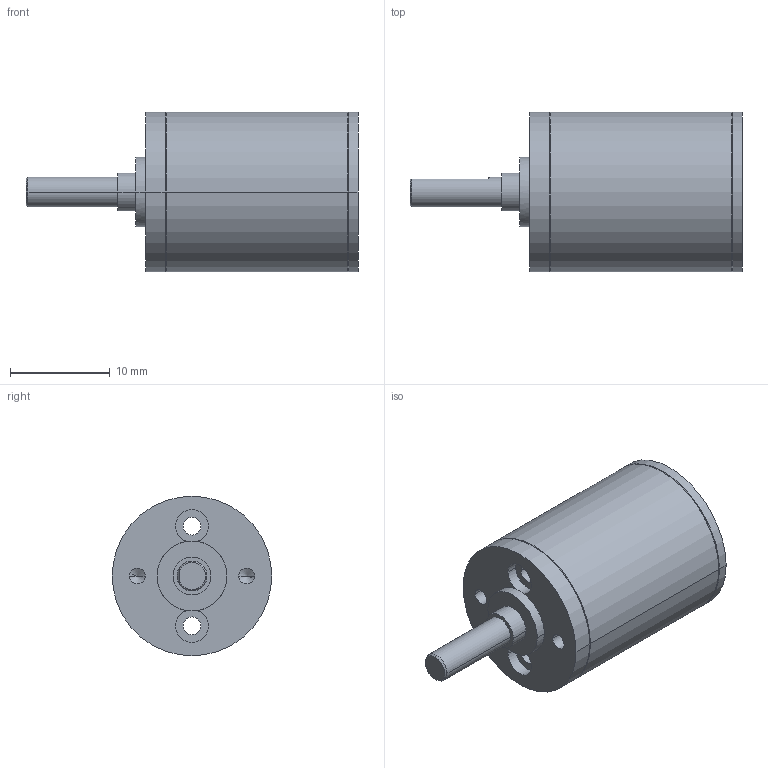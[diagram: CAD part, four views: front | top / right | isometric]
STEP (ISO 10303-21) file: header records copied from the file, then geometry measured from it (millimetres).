
FILE_DESCRIPTION((''),'2;1');
FILE_NAME('GS16V','2016-10-06T',('mmagpetk'),(''),'CREO PARAMETRIC BY PTC INC, 2016050','CREO PARAMETRIC BY PTC INC, 2016050','');
FILE_SCHEMA(('CONFIG_CONTROL_DESIGN'));
Length unit declared in the file: millimetre
Products named in the file (1): GS16V
Bounding box: 33.3 x 16 x 16 mm (x, y, z)
Volume: 3850 mm3; surface area: 2217.7 mm2
Topology: 1 solids, 1 shells, 51 faces, 115 edges, 68 vertices
Faces by surface type: cylinder 26, cone 13, plane 12
Entity records: 1866 total; most frequent: DIRECTION 274, CARTESIAN_POINT 242, ORIENTED_EDGE 222, AXIS2_PLACEMENT_3D 116, PRESENTATION_STYLE_ASSIGNMENT 112, STYLED_ITEM 112, CURVE_STYLE 111, EDGE_CURVE 111
